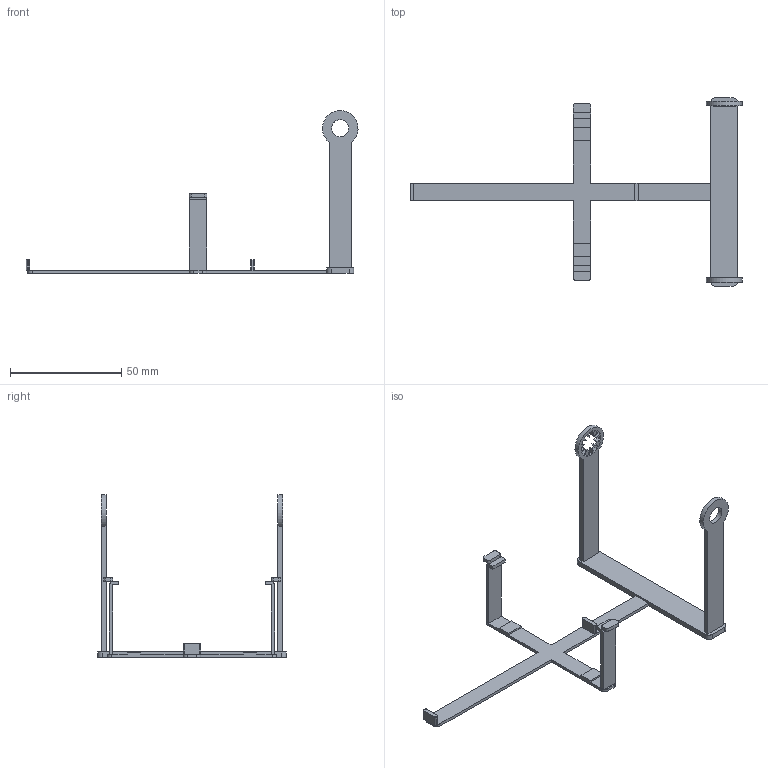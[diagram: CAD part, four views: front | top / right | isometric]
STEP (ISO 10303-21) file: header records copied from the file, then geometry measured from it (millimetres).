
FILE_DESCRIPTION(('Open CASCADE Model'),'2;1');
FILE_NAME('Open CASCADE Shape Model','2026-10-14T00:15:15',('Author'),( 'Open CASCADE'),'Open CASCADE STEP processor 8.0','build123d', 'Unknown');
FILE_SCHEMA(('AUTOMOTIVE_DESIGN { 1 0 10303 214 1 1 1 1 }'));
Length unit declared in the file: millimetre
Products named in the file (1): COMPOUND
Bounding box: 149.34 x 84.8 x 73.17 mm (x, y, z)
Volume: 8876.8 mm3; surface area: 11628.1 mm2
Topology: 1 solids, 1 shells, 157 faces, 449 edges, 296 vertices
Faces by surface type: plane 114, cylinder 43
Full cylindrical faces by diameter (mm): 7.7 x1
Entity records: 10964 total; most frequent: CARTESIAN_POINT 2333, DIRECTION 1529, LINE 979, VECTOR 979, ORIENTED_EDGE 898, PCURVE 898, DEFINITIONAL_REPRESENTATION 898, EDGE_CURVE 449
